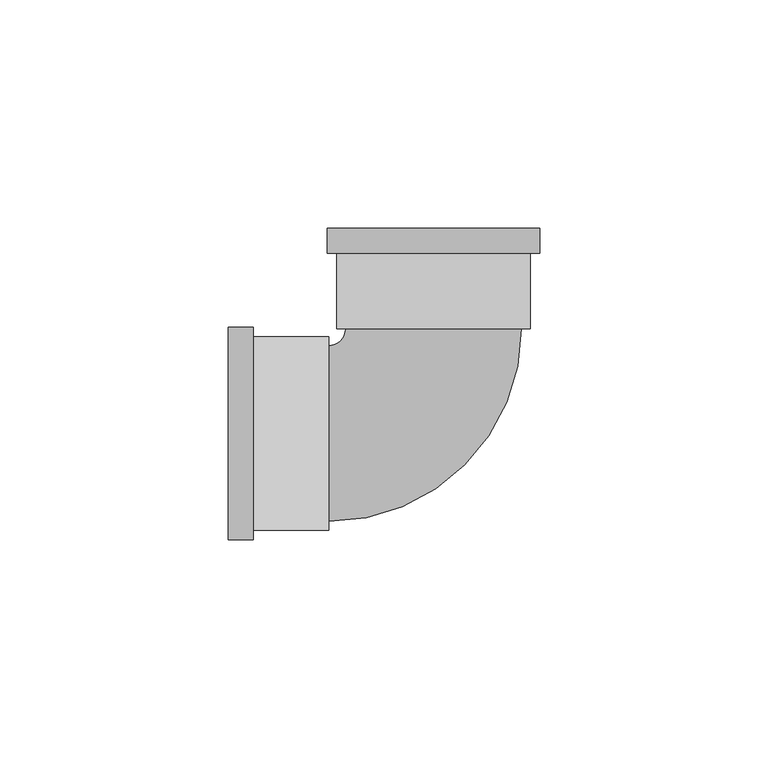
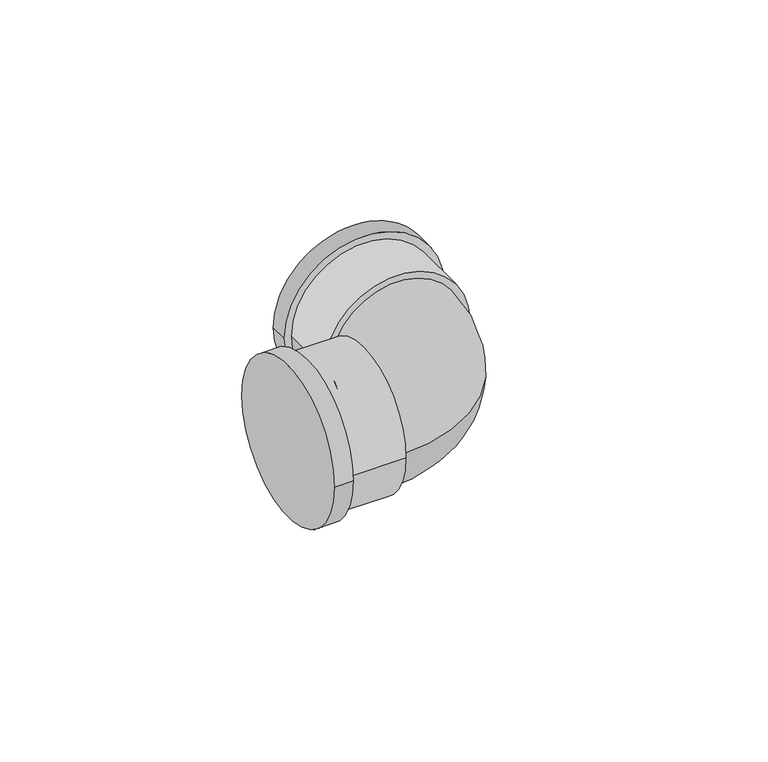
"""IFC4 building model written with IfcOpenShell, lengths in millimetres: pipe fitting geometry, Cotovelo - PVC - CW : Padrão."""

from ifc_helpers import new_model, si_unit, point, frame, origin, place, context, project, spatial, circle_curve, ellipse_curve, trimmed, source, transform, mapped, element, save
from ifc_brep_helpers import plane_surface, cylinder_surface, revolved_surface, advanced_brep


def pipe_fitting_ae63b9ff(model_context):
    return source(origin(), model_context, "Body", "AdvancedBrep", [
        advanced_brep(
        [(-45.0002129, -23.2925, 0.0), (-45.0002129, 23.2925, 0.0), (-39.5002129, -23.2925, 0.0), (-39.5002129, 23.2925, 0.0), (-39.5002129, -21.175, 0.0), (-39.5002129, 21.175, 0.0), (-23.0002129, 21.175, 0.0), (-23.0002129, -21.175, 0.0), (-23.0002129, -19.25, 0.0), (-23.0002129, 19.25, 0.0), (-19.2502129, 23.0000347, 0.0), (19.2497871, 23.0003911, 0.0), (21.1747871, 23.000409, 0.0), (-21.1752129, 23.0000169, 0.0), (-23.2929166, 44.9999973, 0.0), (23.2920834, 45.0004286, 0.0), (21.1746343, 39.500409, 0.0), (-21.1753657, 39.5000169, 0.0), (-23.2928657, 39.4999973, 0.0), (23.2921343, 39.5004286, 0.0)],
        [
            (0, 1, circle_curve(frame((-45.0002129, 0.0, 0.0), z_axis=(-1.0, 0.0, 0.0), x_axis=(0.0, 1.0, 0.0)), 23.2925)),
            (1, 0, circle_curve(frame((-45.0002129, 0.0, 0.0), z_axis=(-1.0, 0.0, 0.0), x_axis=(0.0, 1.0, 0.0)), 23.2925)),
            (2, 3, circle_curve(frame((-39.5002129, 0.0, 0.0), z_axis=(1.0, 0.0, 0.0), x_axis=(0.0, 1.0, 0.0)), 23.2925)),
            (3, 2, circle_curve(frame((-39.5002129, 0.0, 0.0), z_axis=(1.0, 0.0, 0.0), x_axis=(0.0, 1.0, 0.0)), 23.2925)),
            (4, 5, circle_curve(frame((-39.5002129, 0.0, 0.0), z_axis=(-1.0, 0.0, 0.0), x_axis=(0.0, -1.0, 0.0)), 21.175)),
            (5, 4, circle_curve(frame((-39.5002129, 0.0, 0.0), z_axis=(-1.0, 0.0, 0.0), x_axis=(0.0, -1.0, 0.0)), 21.175)),
            (0, 2),
            (3, 1),
            (6, 7, circle_curve(frame((-23.0002129, 0.0, 0.0), z_axis=(1.0, 0.0, 0.0), x_axis=(0.0, -1.0, 0.0)), 21.175)),
            (7, 6, circle_curve(frame((-23.0002129, 0.0, 0.0), z_axis=(1.0, 0.0, 0.0), x_axis=(0.0, -1.0, 0.0)), 21.175)),
            (8, 9, circle_curve(frame((-23.0002129, 0.0, 0.0), z_axis=(-1.0, 0.0, 0.0), x_axis=(0.0, 1.0, 0.0)), 19.25)),
            (9, 8, circle_curve(frame((-23.0002129, 0.0, 0.0), z_axis=(-1.0, 0.0, 0.0), x_axis=(0.0, 1.0, 0.0)), 19.25)),
            (6, 5),
            (4, 7),
            (10, 9, circle_curve(frame((-23.0002129, 23.0, 0.0), z_axis=(0.0, 0.0, -1.0), x_axis=(0.0, -1.0, 0.0)), 3.75)),
            (8, 11, circle_curve(frame((-23.0002129, 23.0, 0.0), z_axis=(0.0, 0.0, 1.0), x_axis=(0.0, -1.0, 0.0)), 42.25)),
            (11, 10, circle_curve(frame((-0.0002129, 23.0002129, 0.0), z_axis=(9.257720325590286e-06, -0.9999999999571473, 0.0), x_axis=(-0.9999999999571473, -9.257720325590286e-06, 0.0)), 19.25)),
            (10, 11, circle_curve(frame((-0.0002129, 23.0002129, 0.0), z_axis=(9.257720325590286e-06, -0.9999999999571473, 0.0), x_axis=(-0.9999999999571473, -9.257720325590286e-06, 0.0)), 19.25)),
            (12, 13, circle_curve(frame((-0.0002129, 23.0002129, 0.0), z_axis=(9.257720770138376e-06, -0.9999999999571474, 0.0), x_axis=(-0.9999999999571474, -9.257720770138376e-06, 0.0)), 21.175)),
            (13, 12, circle_curve(frame((-0.0002129, 23.0002129, 0.0), z_axis=(9.257720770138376e-06, -0.9999999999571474, 0.0), x_axis=(-0.9999999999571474, -9.257720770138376e-06, 0.0)), 21.175)),
            (14, 15, circle_curve(frame((-0.0004166, 45.0002129, 0.0), z_axis=(-9.257720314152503e-06, 0.9999999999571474, 0.0), x_axis=(0.9999999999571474, 9.257720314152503e-06, 0.0)), 23.2925)),
            (15, 14, circle_curve(frame((-0.0004166, 45.0002129, 0.0), z_axis=(-9.257720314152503e-06, 0.9999999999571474, 0.0), x_axis=(0.9999999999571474, 9.257720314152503e-06, 0.0)), 23.2925)),
            (12, 16),
            (16, 17, circle_curve(frame((-0.0003657, 39.5002129, 0.0), z_axis=(9.257720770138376e-06, -0.9999999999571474, 0.0), x_axis=(-0.9999999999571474, -9.257720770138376e-06, 0.0)), 21.175)),
            (17, 13),
            (17, 16, circle_curve(frame((-0.0003657, 39.5002129, 0.0), z_axis=(9.257720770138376e-06, -0.9999999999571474, 0.0), x_axis=(-0.9999999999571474, -9.257720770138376e-06, 0.0)), 21.175)),
            (18, 19, circle_curve(frame((-0.0003657, 39.5002129, 0.0), z_axis=(9.257720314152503e-06, -0.9999999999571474, 0.0), x_axis=(0.9999999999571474, 9.257720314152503e-06, 0.0)), 23.2925)),
            (19, 18, circle_curve(frame((-0.0003657, 39.5002129, 0.0), z_axis=(9.257720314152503e-06, -0.9999999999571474, 0.0), x_axis=(0.9999999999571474, 9.257720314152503e-06, 0.0)), 23.2925)),
            (14, 18),
            (19, 15),
        ],
        [
            plane_surface(frame((-45.0002129, 0.0, 0.0), z_axis=(-1.0, 0.0, 0.0), x_axis=(0.0, 0.0, 1.0))),
            plane_surface(frame((-39.5002129, 0.0, 0.0), z_axis=(1.0, 0.0, 0.0), x_axis=(0.0, 0.0, 1.0))),
            cylinder_surface(frame((-45.0002129, 0.0, 0.0), z_axis=(-1.0, 0.0, 0.0), x_axis=(0.0, 1.0, 0.0)), 23.2925),
            plane_surface(frame((-23.0002129, 0.0, 0.0), z_axis=(1.0, 0.0, 0.0), x_axis=(0.0, 0.0, 1.0))),
            cylinder_surface(frame((-23.0002129, 0.0, 0.0), z_axis=(1.0, 0.0, 0.0), x_axis=(0.0, -1.0, 0.0)), 21.175),
            revolved_surface(trimmed(ellipse_curve(frame((-23.0002129, 0.0, 0.0), z_axis=(-1.0, 0.0, 0.0), x_axis=(0.0, 1.0, 0.0)), 19.25, 19.25), [point((-23.0002129, -19.25, 0.0))], [point((-23.0002129, 19.25, 0.0))], True, "CARTESIAN"), (-23.0002129, 23.0, 0.0), (0.0, 0.0, 1.0)),
            revolved_surface(trimmed(ellipse_curve(frame((-23.0002129, 0.0, 0.0), z_axis=(-1.0, 0.0, 0.0), x_axis=(0.0, 1.0, 0.0)), 19.25, 19.25), [point((-23.0002129, 19.25, 0.0))], [point((-23.0002129, -19.25, 0.0))], True, "CARTESIAN"), (-23.0002129, 23.0, 0.0), (0.0, 0.0, 1.0)),
            plane_surface(frame((-0.0002129, 23.0002129, 0.0), z_axis=(9.257720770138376e-06, -0.9999999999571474, 0.0), x_axis=(0.0, 0.0, 1.0))),
            plane_surface(frame((-0.0004166, 45.0002129, 0.0), z_axis=(-9.257720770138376e-06, 0.9999999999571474, 0.0), x_axis=(0.0, 0.0, 1.0))),
            cylinder_surface(frame((-0.0002129, 23.0002129, 0.0), z_axis=(9.257720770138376e-06, -0.9999999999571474, 0.0), x_axis=(-0.9999999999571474, -9.257720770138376e-06, 0.0)), 21.175),
            plane_surface(frame((-0.0003657, 39.5002129, 0.0), z_axis=(9.257720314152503e-06, -0.9999999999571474, 0.0), x_axis=(0.0, 0.0, 1.0))),
            cylinder_surface(frame((-0.0004166, 45.0002129, 0.0), z_axis=(-9.257720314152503e-06, 0.9999999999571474, 0.0), x_axis=(0.9999999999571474, 9.257720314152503e-06, 0.0)), 23.2925),
        ],
        [
            (0, [[1, 2]]),
            (1, [[3, 4], [5, 6]]),
            (2, [[-1, 7, -4, 8]]),
            (2, [[-2, -8, -3, -7]]),
            (3, [[9, 10], [11, 12]]),
            (4, [[-9, 13, -5, 14]]),
            (4, [[-10, -14, -6, -13]]),
            (5, [[15, -11, 16, 17]]),
            (6, [[-15, 18, -16, -12]]),
            (7, [[19, 20], [-17, -18]]),
            (8, [[21, 22]]),
            (9, [[-19, 23, 24, 25]]),
            (9, [[-20, -25, 26, -23]]),
            (10, [[27, 28], [-24, -26]]),
            (11, [[-21, 29, -28, 30]]),
            (11, [[-22, -30, -27, -29]]),
        ],
    ),
    ])


if __name__ == "__main__":
    model = new_model("IFC4")
    model_context = context("Model", 3, world=origin())
    ifc_project = project(units=[si_unit("LENGTHUNIT", "METRE", prefix="MILLI")], contexts=[model_context])
    site = spatial("IfcSite", under=ifc_project)
    building = spatial("IfcBuilding", under=site)
    placement = place(None, origin())
    pipe_fitting_shape = pipe_fitting_ae63b9ff(model_context)
    element("IfcPipeFitting", 1, ObjectType="Cotovelo - PVC - CW : Padrão", at=placement, inside=building, context=model_context, shape_type="MappedRepresentation", body=[
        mapped(pipe_fitting_shape, transform((0.0, 0.0, 0.0), x_axis=(1.0, 0.0, 0.0), y_axis=(0.0, 1.0, 0.0), z_axis=(0.0, 0.0, 1.0))),
    ])
    save(model, "model.ifc")
